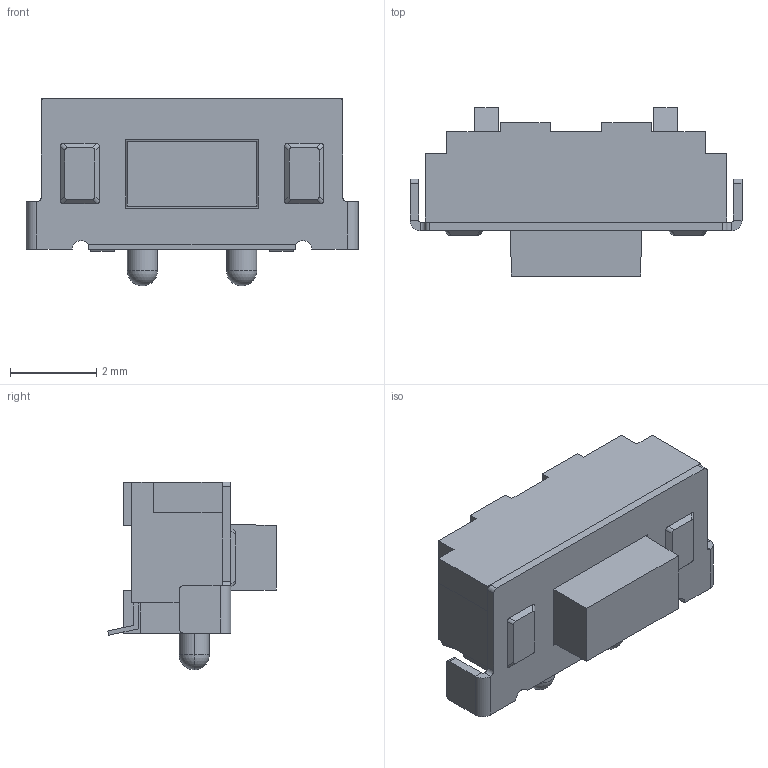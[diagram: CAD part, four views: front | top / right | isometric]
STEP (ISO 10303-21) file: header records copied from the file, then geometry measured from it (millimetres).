
FILE_DESCRIPTION((''),'2;1');
FILE_NAME('JQD3570-C0351-ADG-1-105_ASM','2026-05-21T19:05:53',('Admin'),(''),'CREO PARAMETRIC BY PTC INC, 2019224','CREO PARAMETRIC BY PTC INC, 2019224','');
FILE_SCHEMA(('AUTOMOTIVE_DESIGN { 1 0 10303 214 1 1 1 1 }'));
Length unit declared in the file: millimetre
Products named in the file (3): JQD3570-C0351-ADG-1-105_01; JQD3570-C0351-ADG-1-105_02; JQD3570-C0351-ADG-1-105_ASM
Assembly tree (2 placements, depth 2):
  JQD3570-C0351-ADG-1-105_ASM
    JQD3570-C0351-ADG-1-105_01
    JQD3570-C0351-ADG-1-105_02
Bounding box: 7.7 x 3.91 x 4.35 mm (x, y, z)
Volume: 55.2 mm3; surface area: 159.9 mm2
Topology: 2 solids, 2 shells, 137 faces, 360 edges, 234 vertices
Faces by surface type: plane 107, cylinder 26, sphere 4
Entity records: 5274 total; most frequent: CARTESIAN_POINT 779, ORIENTED_EDGE 708, DIRECTION 672, EDGE_CURVE 354, VECTOR 300, LINE 300, PRESENTATION_STYLE_ASSIGNMENT 257, STYLED_ITEM 238
